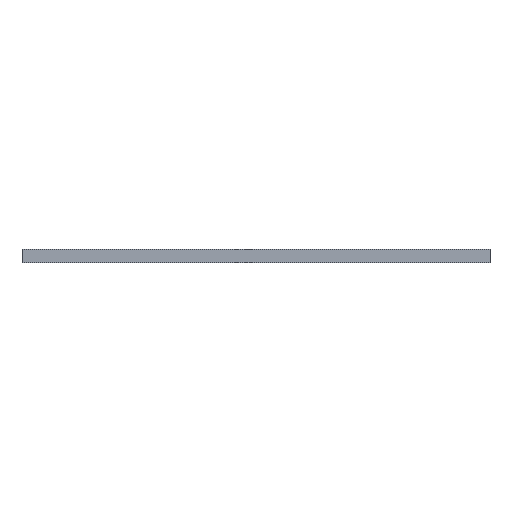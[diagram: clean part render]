
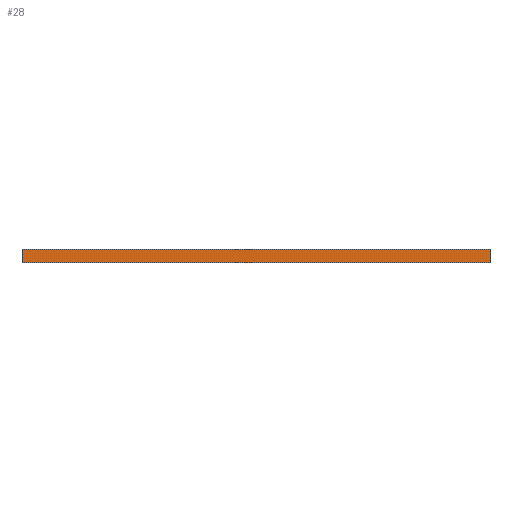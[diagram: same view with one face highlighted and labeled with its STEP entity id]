
A CAD part, front view. The second image highlights one B-rep face of the part: STEP entity #28.
In plain terms, the highlighted planar face has unit normal (0, -1, 0).
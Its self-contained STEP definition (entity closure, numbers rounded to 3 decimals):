
#28 = ADVANCED_FACE('',(#29),#63,.F.);
#29 = FACE_BOUND('',#30,.F.);
#30 = EDGE_LOOP('',(#31,#41,#49,#57));
#31 = ORIENTED_EDGE('',*,*,#32,.T.);
#32 = EDGE_CURVE('',#33,#35,#37,.T.);
#33 = VERTEX_POINT('',#34);
#34 = CARTESIAN_POINT('',(0.,0.,-1.555));
#35 = VERTEX_POINT('',#36);
#36 = CARTESIAN_POINT('',(0.,0.,0.));
#37 = LINE('',#38,#39);
#38 = CARTESIAN_POINT('',(0.,0.,-1.555));
#39 = VECTOR('',#40,1.);
#40 = DIRECTION('',(0.,0.,1.));
#41 = ORIENTED_EDGE('',*,*,#42,.T.);
#42 = EDGE_CURVE('',#35,#43,#45,.T.);
#43 = VERTEX_POINT('',#44);
#44 = CARTESIAN_POINT('',(55.88,0.,0.));
#45 = LINE('',#46,#47);
#46 = CARTESIAN_POINT('',(0.,0.,0.));
#47 = VECTOR('',#48,1.);
#48 = DIRECTION('',(1.,0.,0.));
#49 = ORIENTED_EDGE('',*,*,#50,.F.);
#50 = EDGE_CURVE('',#51,#43,#53,.T.);
#51 = VERTEX_POINT('',#52);
#52 = CARTESIAN_POINT('',(55.88,0.,-1.555));
#53 = LINE('',#54,#55);
#54 = CARTESIAN_POINT('',(55.88,0.,-1.555));
#55 = VECTOR('',#56,1.);
#56 = DIRECTION('',(0.,0.,1.));
#57 = ORIENTED_EDGE('',*,*,#58,.F.);
#58 = EDGE_CURVE('',#33,#51,#59,.T.);
#59 = LINE('',#60,#61);
#60 = CARTESIAN_POINT('',(0.,0.,-1.555));
#61 = VECTOR('',#62,1.);
#62 = DIRECTION('',(1.,0.,0.));
#63 = PLANE('',#64);
#64 = AXIS2_PLACEMENT_3D('',#65,#66,#67);
#65 = CARTESIAN_POINT('',(0.,0.,-1.555));
#66 = DIRECTION('',(0.,1.,0.));
#67 = DIRECTION('',(1.,0.,0.));
